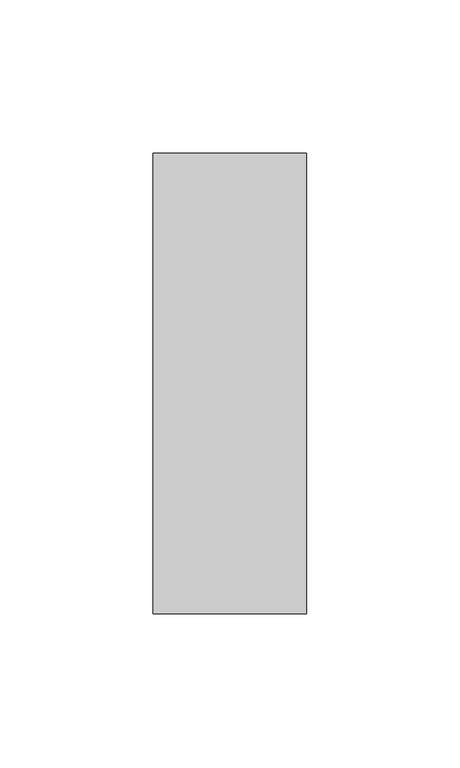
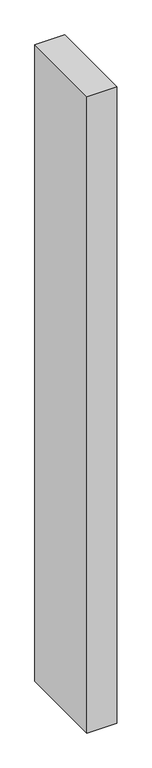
"""IFC4 building model written with IfcOpenShell, lengths in millimetres: member geometry, Прямоугольный импост : 50 x 150 мм."""

from ifc_helpers import new_model, si_unit, frame, origin, place, context, project, spatial, polyline, outline, extrude, source, transform, mapped, element, save


def member_c2f87cbd(model_context):
    return source(origin(), model_context, "Body", "SweptSolid", [
        extrude(outline(polyline([(25.0, 75.0), (25.0, -75.0), (-25.0, -75.0), (-25.0, 75.0), (25.0, 75.0)])), frame((0.0, 0.0, -1120.5941669), z_axis=(0.0, 0.0, 1.0), x_axis=(1.0, 0.0, 0.0)), (0.0, 0.0, 1.0), 1120.5941669),
    ])


if __name__ == "__main__":
    model = new_model("IFC4")
    model_context = context("Model", 3, world=origin())
    ifc_project = project(units=[si_unit("LENGTHUNIT", "METRE", prefix="MILLI")], contexts=[model_context])
    site = spatial("IfcSite", under=ifc_project)
    building = spatial("IfcBuilding", under=site)
    placement = place(None, origin())
    member_shape = member_c2f87cbd(model_context)
    element("IfcMember", 1, ObjectType="Прямоугольный импост : 50 x 150 мм", at=placement, inside=building, context=model_context, shape_type="MappedRepresentation", body=[
        mapped(member_shape, transform((0.0, 0.0, 0.0), x_axis=(1.0, 0.0, 0.0), y_axis=(0.0, 1.0, 0.0), z_axis=(0.0, 0.0, 1.0))),
    ])
    save(model, "model.ifc")
